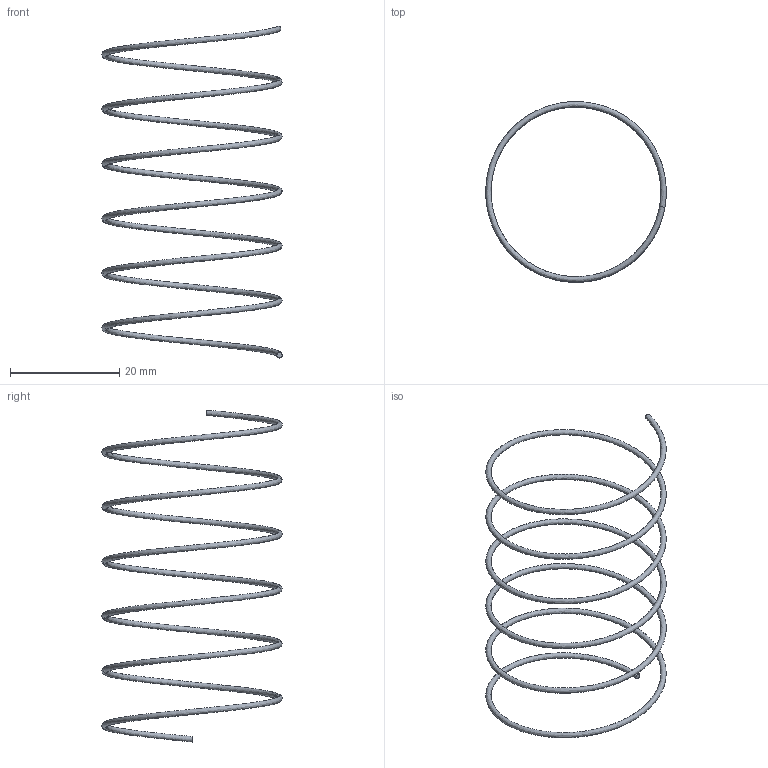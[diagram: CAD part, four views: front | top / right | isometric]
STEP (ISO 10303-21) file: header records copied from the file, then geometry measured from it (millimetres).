
FILE_DESCRIPTION( ( 'STEP AP203' ), '1' );
FILE_NAME( 'D:/Cuma/25 06 2009/D60.01/D60.01_32/D60.01_3260.step', '2003-02-03T14:14:50', ( ' ' ), ( ' ' ), 'XStep 1.0', ' ', ' ' );
FILE_SCHEMA( ( 'CONFIG_CONTROL_DESIGN' ) );
Length unit declared in the file: metre
Products named in the file (1): 1
Bounding box: 33 x 33 x 60.72 mm (x, y, z)
Volume: 466.9 mm3; surface area: 1883.2 mm2
Topology: 1 solids, 1 shells, 3 faces, 3 edges, 2 vertices
Faces by surface type: plane 2, bspline 1
Entity records: 1071 total; most frequent: CARTESIAN_POINT 989, DIRECTION 6, CC_DESIGN_PERSON_AND_ORGANIZATION_ASSIGNMENT 5, PERSON_AND_ORGANIZATION_ROLE 4, FACE_OUTER_BOUND 4, EDGE_LOOP 4, ORIENTED_EDGE 4, AXIS2_PLACEMENT_3D 3
